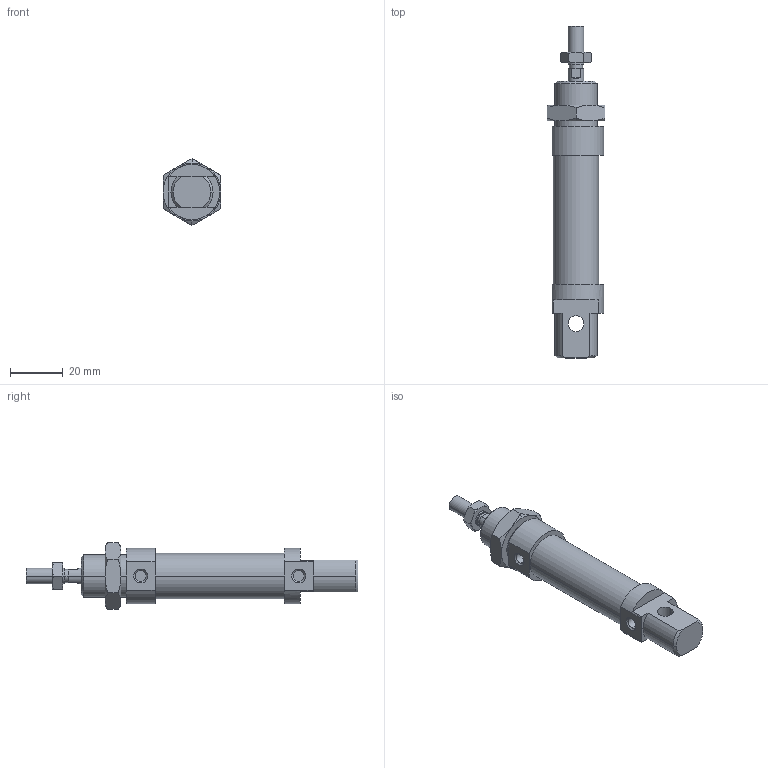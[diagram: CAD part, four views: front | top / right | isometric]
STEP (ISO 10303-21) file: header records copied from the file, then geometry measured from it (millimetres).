
FILE_DESCRIPTION((''),'2;1');
FILE_NAME('I:\DOC-EDP\Lib-3d\1200\CILINDRI\1280\1280_16_0015.stp','2003-04-07T14:52:23',('maffial1'),(''),'Autodesk Inventor (R) 6.0','Autodesk Inventor (R) 6.0','');
FILE_SCHEMA(('AUTOMOTIVE_DESIGN { 1 0 10303 214 1 1 1 1 }'));
Length unit declared in the file: millimetre
Products named in the file (5): 1280_16_0015; S1280_16_15; 1200_16_05; 1200_16_06; C1280_16_15
Assembly tree (4 placements, depth 2):
  1280_16_0015
    S1280_16_15
    1200_16_05
    1200_16_06
    C1280_16_15
Bounding box: 22 x 126 x 25.4 mm (x, y, z)
Volume: 26346.2 mm3; surface area: 10422.8 mm2
Topology: 4 solids, 4 shells, 121 faces, 268 edges, 162 vertices
Faces by surface type: cone 40, plane 39, cylinder 22, bspline 20
Entity records: 3653 total; most frequent: CARTESIAN_POINT 976, DIRECTION 556, ORIENTED_EDGE 536, EDGE_CURVE 268, AXIS2_PLACEMENT_3D 230, VERTEX_POINT 162, EDGE_LOOP 134, FACE_OUTER_BOUND 121
